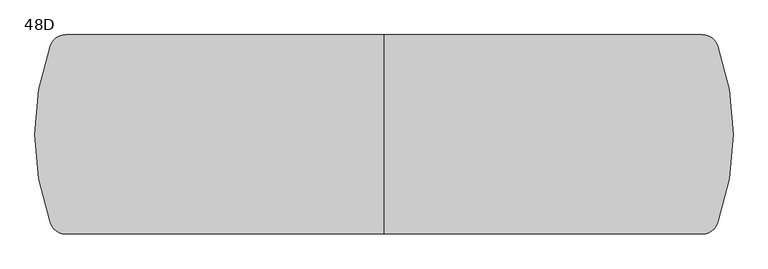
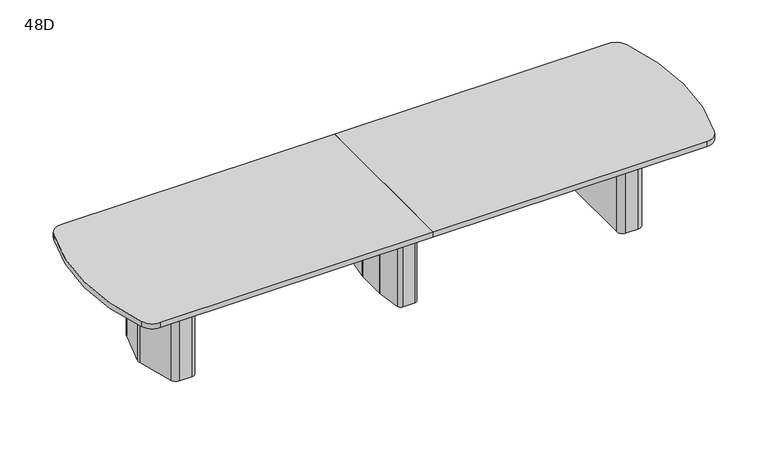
"""IFC4 building model written with IfcOpenShell, lengths in millimetres: furniture geometry, Coalesse_AM_Table_Conference_ETable2_SoftRadiused_14ft_ThreeBase : 48D."""

from ifc_helpers import new_model, si_unit, point, frame, frame_2d, origin, place, context, project, spatial, polyline, circle_curve, trimmed, segment, composite_curve, outline, extrude, source, transform, mapped, element, save
from ifc_brep_helpers import plane_surface, cylinder_surface, revolved_surface, advanced_brep


def furniture_48d_4687fa82(model_context):
    return source(origin(), model_context, "Body", "SolidModel", [
        advanced_brep(
        [(35.71875, 206.375, 3.175), (10.31875, 231.775, 3.175), (-10.31875, 231.775, 3.175), (-35.71875, 206.375, 3.175), (-35.71875, -206.375, 3.175), (-10.31875, -231.775, 3.175), (10.31875, -231.775, 3.175), (35.71875, -206.375, 3.175), (-61.11875, 206.375, 0.0), (-10.31875, 257.175, 0.0), (10.31875, 257.175, 0.0), (61.11875, 206.375, 0.0), (61.11875, -206.375, 0.0), (10.31875, -257.175, 0.0), (-10.31875, -257.175, 0.0), (-61.11875, -206.375, 0.0), (-61.11875, -206.375, 3.175), (-61.11875, 206.375, 3.175), (-10.31875, -257.175, 3.175), (10.31875, -257.175, 3.175), (61.11875, -206.375, 3.175), (61.11875, 206.375, 3.175), (10.31875, 257.175, 3.175), (-10.31875, 257.175, 3.175), (-92.6215974, 106.2976848, 698.5), (-92.86875, 102.7629613, 698.5), (-92.86875, -102.7629613, 698.5), (-92.6215974, -106.2976848, 698.5), (-67.7988375, -282.9347235, 698.5), (-42.6459902, -304.8, 698.5), (42.6459902, -304.8, 698.5), (67.7988375, -282.9347235, 698.5), (92.6215974, -106.2976848, 698.5), (92.86875, -102.7629613, 698.5), (92.86875, 102.7629613, 698.5), (92.6215974, 106.2976848, 698.5), (67.7988375, 282.9347235, 698.5), (42.6459902, 304.8, 698.5), (-42.6459902, 304.8, 698.5), (-67.7988375, 282.9347235, 698.5), (10.31875, 231.775, 698.5), (35.71875, 206.375, 698.5), (35.71875, -206.375, 698.5), (10.31875, -231.775, 698.5), (-10.31875, -231.775, 698.5), (-35.71875, -206.375, 698.5), (-35.71875, 206.375, 698.5), (-10.31875, 231.775, 698.5), (-92.6215974, 106.2976848, 3.175), (-67.7988375, 282.9347235, 3.175), (-42.6459902, 304.8, 3.175), (42.6459902, 304.8, 3.175), (67.7988375, 282.9347235, 3.175), (92.6215974, 106.2976848, 3.175), (92.86875, 102.7629613, 3.175), (92.86875, -102.7629613, 3.175), (92.6215974, -106.2976848, 3.175), (67.7988375, -282.9347235, 3.175), (42.6459902, -304.8, 3.175), (-42.6459902, -304.8, 3.175), (-67.7988375, -282.9347235, 3.175), (-92.6215974, -106.2976848, 3.175), (-92.86875, -102.7629613, 3.175), (-92.86875, 102.7629613, 3.175)],
        [
            (0, 1, circle_curve(frame((10.31875, 206.375, 3.175), z_axis=(0.0, 0.0, 1.0), x_axis=(1.0, 0.0, 0.0)), 25.4)),
            (1, 2),
            (2, 3, circle_curve(frame((-10.31875, 206.375, 3.175), z_axis=(0.0, 0.0, 1.0), x_axis=(1.0, 0.0, 0.0)), 25.4)),
            (3, 4),
            (4, 5, circle_curve(frame((-10.31875, -206.375, 3.175), z_axis=(0.0, 0.0, 1.0), x_axis=(1.0, 0.0, 0.0)), 25.4)),
            (5, 6),
            (6, 7, circle_curve(frame((10.31875, -206.375, 3.175), z_axis=(0.0, 0.0, 1.0), x_axis=(1.0, 0.0, 0.0)), 25.4)),
            (7, 0),
            (8, 9, circle_curve(frame((-10.31875, 206.375, 0.0), z_axis=(0.0, 0.0, -1.0), x_axis=(1.0, 0.0, 0.0)), 50.8)),
            (9, 10),
            (10, 11, circle_curve(frame((10.31875, 206.375, 0.0), z_axis=(0.0, 0.0, -1.0), x_axis=(1.0, 0.0, 0.0)), 50.8)),
            (11, 12),
            (12, 13, circle_curve(frame((10.31875, -206.375, 0.0), z_axis=(0.0, 0.0, -1.0), x_axis=(1.0, 0.0, 0.0)), 50.8)),
            (13, 14),
            (14, 15, circle_curve(frame((-10.31875, -206.375, 0.0), z_axis=(0.0, 0.0, -1.0), x_axis=(1.0, 0.0, 0.0)), 50.8)),
            (15, 8),
            (15, 16),
            (16, 17),
            (17, 8),
            (14, 18),
            (18, 16, circle_curve(frame((-10.31875, -206.375, 3.175), z_axis=(0.0, 0.0, -1.0), x_axis=(1.0, 0.0, 0.0)), 50.8)),
            (13, 19),
            (19, 18),
            (12, 20),
            (20, 19, circle_curve(frame((10.31875, -206.375, 3.175), z_axis=(0.0, 0.0, -1.0), x_axis=(1.0, 0.0, 0.0)), 50.8)),
            (11, 21),
            (21, 20),
            (10, 22),
            (22, 21, circle_curve(frame((10.31875, 206.375, 3.175), z_axis=(0.0, 0.0, -1.0), x_axis=(1.0, 0.0, 0.0)), 50.8)),
            (9, 23),
            (23, 22),
            (17, 23, circle_curve(frame((-10.31875, 206.375, 3.175), z_axis=(0.0, 0.0, -1.0), x_axis=(1.0, 0.0, 0.0)), 50.8)),
            (24, 25, circle_curve(frame((-67.46875, 102.7629613, 698.5), z_axis=(0.0, 0.0, 1.0), x_axis=(1.0, 0.0, 0.0)), 25.4)),
            (25, 26),
            (26, 27, circle_curve(frame((-67.46875, -102.7629613, 698.5), z_axis=(0.0, 0.0, 1.0), x_axis=(1.0, 0.0, 0.0)), 25.4)),
            (27, 28),
            (28, 29, circle_curve(frame((-42.6459902, -279.4, 698.5), z_axis=(0.0, 0.0, 1.0), x_axis=(1.0, 0.0, 0.0)), 25.4)),
            (29, 30),
            (30, 31, circle_curve(frame((42.6459902, -279.4, 698.5), z_axis=(0.0, 0.0, 1.0), x_axis=(1.0, 0.0, 0.0)), 25.4)),
            (31, 32),
            (32, 33, circle_curve(frame((67.46875, -102.7629613, 698.5), z_axis=(0.0, 0.0, 1.0), x_axis=(1.0, 0.0, 0.0)), 25.4)),
            (33, 34),
            (34, 35, circle_curve(frame((67.46875, 102.7629613, 698.5), z_axis=(0.0, 0.0, 1.0), x_axis=(1.0, 0.0, 0.0)), 25.4)),
            (35, 36),
            (36, 37, circle_curve(frame((42.6459902, 279.4, 698.5), z_axis=(0.0, 0.0, 1.0), x_axis=(1.0, 0.0, 0.0)), 25.4)),
            (37, 38),
            (38, 39, circle_curve(frame((-42.6459902, 279.4, 698.5), z_axis=(0.0, 0.0, 1.0), x_axis=(1.0, 0.0, 0.0)), 25.4)),
            (39, 24),
            (40, 41, circle_curve(frame((10.31875, 206.375, 698.5), z_axis=(0.0, 0.0, -1.0), x_axis=(1.0, 0.0, 0.0)), 25.4)),
            (41, 42),
            (42, 43, circle_curve(frame((10.31875, -206.375, 698.5), z_axis=(0.0, 0.0, -1.0), x_axis=(1.0, 0.0, 0.0)), 25.4)),
            (43, 44),
            (44, 45, circle_curve(frame((-10.31875, -206.375, 698.5), z_axis=(0.0, 0.0, -1.0), x_axis=(1.0, 0.0, 0.0)), 25.4)),
            (45, 46),
            (46, 47, circle_curve(frame((-10.31875, 206.375, 698.5), z_axis=(0.0, 0.0, -1.0), x_axis=(1.0, 0.0, 0.0)), 25.4)),
            (47, 40),
            (48, 49),
            (49, 50, circle_curve(frame((-42.6459902, 279.4, 3.175), z_axis=(0.0, 0.0, -1.0), x_axis=(1.0, 0.0, 0.0)), 25.4)),
            (50, 51),
            (51, 52, circle_curve(frame((42.6459902, 279.4, 3.175), z_axis=(0.0, 0.0, -1.0), x_axis=(1.0, 0.0, 0.0)), 25.4)),
            (52, 53),
            (53, 54, circle_curve(frame((67.46875, 102.7629613, 3.175), z_axis=(0.0, 0.0, -1.0), x_axis=(1.0, 0.0, 0.0)), 25.4)),
            (54, 55),
            (55, 56, circle_curve(frame((67.46875, -102.7629613, 3.175), z_axis=(0.0, 0.0, -1.0), x_axis=(1.0, 0.0, 0.0)), 25.4)),
            (56, 57),
            (57, 58, circle_curve(frame((42.6459902, -279.4, 3.175), z_axis=(0.0, 0.0, -1.0), x_axis=(1.0, 0.0, 0.0)), 25.4)),
            (58, 59),
            (59, 60, circle_curve(frame((-42.6459902, -279.4, 3.175), z_axis=(0.0, 0.0, -1.0), x_axis=(1.0, 0.0, 0.0)), 25.4)),
            (60, 61),
            (61, 62, circle_curve(frame((-67.46875, -102.7629613, 3.175), z_axis=(0.0, 0.0, -1.0), x_axis=(1.0, 0.0, 0.0)), 25.4)),
            (62, 63),
            (63, 48, circle_curve(frame((-67.46875, 102.7629613, 3.175), z_axis=(0.0, 0.0, -1.0), x_axis=(1.0, 0.0, 0.0)), 25.4)),
            (24, 48),
            (63, 25),
            (62, 26),
            (61, 27),
            (60, 28),
            (59, 29),
            (58, 30),
            (57, 31),
            (56, 32),
            (55, 33),
            (54, 34),
            (53, 35),
            (52, 36),
            (51, 37),
            (50, 38),
            (49, 39),
            (40, 1),
            (0, 41),
            (7, 42),
            (6, 43),
            (5, 44),
            (4, 45),
            (3, 46),
            (2, 47),
        ],
        [
            plane_surface(frame((-61.11875, -206.375, 3.175), z_axis=(0.0, 0.0, 1.0), x_axis=(0.0, -1.0, 0.0))),
            plane_surface(frame((-61.11875, -206.375, 0.0), z_axis=(0.0, 0.0, -1.0), x_axis=(0.0, 1.0, 0.0))),
            plane_surface(frame((-61.11875, 206.375, 3.175), z_axis=(-1.0, 0.0, 0.0), x_axis=(0.0, 0.0, -1.0))),
            cylinder_surface(frame((-10.31875, -206.375, 0.0), z_axis=(0.0, 0.0, 1.0), x_axis=(1.0, 0.0, 0.0)), 50.8),
            plane_surface(frame((-10.31875, -257.175, 3.175), z_axis=(0.0, -1.0, 0.0), x_axis=(0.0, 0.0, -1.0))),
            cylinder_surface(frame((10.31875, -206.375, 0.0), z_axis=(0.0, 0.0, 1.0), x_axis=(1.0, 0.0, 0.0)), 50.8),
            plane_surface(frame((61.11875, -206.375, 3.175), z_axis=(1.0, 0.0, 0.0), x_axis=(0.0, 0.0, -1.0))),
            cylinder_surface(frame((10.31875, 206.375, 0.0), z_axis=(0.0, 0.0, 1.0), x_axis=(1.0, 0.0, 0.0)), 50.8),
            plane_surface(frame((10.31875, 257.175, 3.175), z_axis=(0.0, 1.0, 0.0), x_axis=(0.0, 0.0, -1.0))),
            cylinder_surface(frame((-10.31875, 206.375, 0.0), z_axis=(0.0, 0.0, 1.0), x_axis=(1.0, 0.0, 0.0)), 50.8),
            plane_surface(frame((-42.06875, 102.7629613, 698.5), z_axis=(0.0, 0.0, 1.0), x_axis=(0.0, 1.0, 0.0))),
            plane_surface(frame((-42.06875, 102.7629613, 3.175), z_axis=(0.0, 0.0, -1.0), x_axis=(0.0, -1.0, 0.0))),
            cylinder_surface(frame((-67.46875, 102.7629613, 3.175), z_axis=(0.0, 0.0, 1.0), x_axis=(1.0, 0.0, 0.0)), 25.4),
            plane_surface(frame((-92.86875, 102.7629613, 698.5), z_axis=(-1.0, 0.0, 0.0), x_axis=(0.0, 0.0, -1.0))),
            cylinder_surface(frame((-67.46875, -102.7629613, 3.175), z_axis=(0.0, 0.0, 1.0), x_axis=(1.0, 0.0, 0.0)), 25.4),
            plane_surface(frame((-92.6215974, -106.2976848, 698.5), z_axis=(-0.9902695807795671, -0.13916234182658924, 0.0), x_axis=(0.0, 0.0, -1.0))),
            cylinder_surface(frame((-42.6459902, -279.4, 3.175), z_axis=(0.0, 0.0, 1.0), x_axis=(1.0, 0.0, 0.0)), 25.4),
            plane_surface(frame((-42.6459902, -304.8, 698.5), z_axis=(0.0, -1.0, 0.0), x_axis=(0.0, 0.0, -1.0))),
            cylinder_surface(frame((42.6459902, -279.4, 3.175), z_axis=(0.0, 0.0, 1.0), x_axis=(1.0, 0.0, 0.0)), 25.4),
            plane_surface(frame((67.7988375, -282.9347235, 698.5), z_axis=(0.9902695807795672, -0.13916234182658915, 0.0), x_axis=(0.0, 0.0, -1.0))),
            cylinder_surface(frame((67.46875, -102.7629613, 3.175), z_axis=(0.0, 0.0, 1.0), x_axis=(1.0, 0.0, 0.0)), 25.4),
            plane_surface(frame((92.86875, -102.7629613, 698.5), z_axis=(1.0, 0.0, 0.0), x_axis=(0.0, 0.0, -1.0))),
            cylinder_surface(frame((67.46875, 102.7629613, 3.175), z_axis=(0.0, 0.0, 1.0), x_axis=(1.0, 0.0, 0.0)), 25.4),
            plane_surface(frame((92.6215974, 106.2976848, 698.5), z_axis=(0.9902695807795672, 0.1391623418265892, 0.0), x_axis=(0.0, 0.0, -1.0))),
            cylinder_surface(frame((42.6459902, 279.4, 3.175), z_axis=(0.0, 0.0, 1.0), x_axis=(1.0, 0.0, 0.0)), 25.4),
            plane_surface(frame((42.6459902, 304.8, 698.5), z_axis=(0.0, 1.0, 0.0), x_axis=(0.0, 0.0, -1.0))),
            cylinder_surface(frame((-42.6459902, 279.4, 3.175), z_axis=(0.0, 0.0, 1.0), x_axis=(1.0, 0.0, 0.0)), 25.4),
            plane_surface(frame((-67.7988375, 282.9347235, 698.5), z_axis=(-0.9902695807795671, 0.13916234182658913, 0.0), x_axis=(0.0, 0.0, -1.0))),
            revolved_surface(polyline([(35.71875, 206.375, 3.175), (35.71875, 206.375, 698.5)]), (10.31875, 206.375, 0.0), (0.0, 0.0, -1.0)),
            plane_surface(frame((35.71875, 206.375, 698.5), z_axis=(-1.0, 0.0, 0.0), x_axis=(0.0, 0.0, -1.0))),
            revolved_surface(polyline([(35.71875, -206.375, 3.175), (35.71875, -206.375, 698.5)]), (10.31875, -206.375, 0.0), (0.0, 0.0, -1.0)),
            plane_surface(frame((10.31875, -231.775, 698.5), z_axis=(0.0, 1.0, 0.0), x_axis=(0.0, 0.0, -1.0))),
            revolved_surface(polyline([(15.081249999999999, -206.375, 3.175), (15.081249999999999, -206.375, 698.5)]), (-10.31875, -206.375, 0.0), (0.0, 0.0, -1.0)),
            plane_surface(frame((-35.71875, -206.375, 698.5), z_axis=(1.0, 0.0, 0.0), x_axis=(0.0, 0.0, -1.0))),
            revolved_surface(polyline([(15.081249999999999, 206.375, 3.175), (15.081249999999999, 206.375, 698.5)]), (-10.31875, 206.375, 0.0), (0.0, 0.0, -1.0)),
            plane_surface(frame((-10.31875, 231.775, 698.5), z_axis=(0.0, -1.0, 0.0), x_axis=(0.0, 0.0, -1.0))),
        ],
        [
            (0, [[1, 2, 3, 4, 5, 6, 7, 8]]),
            (1, [[9, 10, 11, 12, 13, 14, 15, 16]]),
            (2, [[-16, 17, 18, 19]]),
            (3, [[-15, 20, 21, -17]]),
            (4, [[-14, 22, 23, -20]]),
            (5, [[-13, 24, 25, -22]]),
            (6, [[-12, 26, 27, -24]]),
            (7, [[-11, 28, 29, -26]]),
            (8, [[-10, 30, 31, -28]]),
            (9, [[-9, -19, 32, -30]]),
            (10, [[33, 34, 35, 36, 37, 38, 39, 40, 41, 42, 43, 44, 45, 46, 47, 48], [49, 50, 51, 52, 53, 54, 55, 56]]),
            (11, [[57, 58, 59, 60, 61, 62, 63, 64, 65, 66, 67, 68, 69, 70, 71, 72], [-18, -21, -23, -25, -27, -29, -31, -32]]),
            (12, [[-33, 73, -72, 74]]),
            (13, [[-34, -74, -71, 75]]),
            (14, [[-35, -75, -70, 76]]),
            (15, [[-36, -76, -69, 77]]),
            (16, [[-37, -77, -68, 78]]),
            (17, [[-38, -78, -67, 79]]),
            (18, [[-39, -79, -66, 80]]),
            (19, [[-40, -80, -65, 81]]),
            (20, [[-41, -81, -64, 82]]),
            (21, [[-42, -82, -63, 83]]),
            (22, [[-43, -83, -62, 84]]),
            (23, [[-44, -84, -61, 85]]),
            (24, [[-45, -85, -60, 86]]),
            (25, [[-46, -86, -59, 87]]),
            (26, [[-47, -87, -58, 88]]),
            (27, [[-48, -88, -57, -73]]),
            (28, [[-49, 89, -1, 90]]),
            (29, [[-50, -90, -8, 91]]),
            (30, [[-51, -91, -7, 92]]),
            (31, [[-52, -92, -6, 93]]),
            (32, [[-53, -93, -5, 94]]),
            (33, [[-54, -94, -4, 95]]),
            (34, [[-55, -95, -3, 96]]),
            (35, [[-56, -96, -2, -89]]),
        ],
    ),
        advanced_brep(
        [(1675.024548, 274.2093613, 698.5), (1635.1579246, 304.8, 698.5), (1546.225, 304.8, 698.5), (1504.95, 263.525, 698.5), (1504.95, -263.525, 698.5), (1546.225, -304.8, 698.5), (1635.1579246, -304.8, 698.5), (1675.024548, -274.2093613, 698.5), (1745.6503901, -10.6333708, 698.5), (1745.6503901, 10.6333708, 698.5), (1543.05, -206.375, 698.5), (1543.05, 206.375, 698.5), (1568.45, 231.775, 698.5), (1627.4608422, 231.775, 698.5), (1651.995338, 212.9490792, 698.5), (1690.6875, 68.54974, 698.5), (1690.6875, -68.54974, 698.5), (1651.995338, -212.9490792, 698.5), (1627.4608422, -231.775, 698.5), (1568.45, -231.775, 698.5), (1675.024548, 274.2093613, 3.175), (1745.6503901, 10.6333708, 3.175), (1745.6503901, -10.6333708, 3.175), (1675.024548, -274.2093613, 3.175), (1635.1579246, -304.8, 3.175), (1546.225, -304.8, 3.175), (1504.95, -263.525, 3.175), (1504.95, 263.525, 3.175), (1546.225, 304.8, 3.175), (1635.1579246, 304.8, 3.175), (1664.2625859, 216.2361187, 3.175), (1627.4608422, 244.475, 3.175), (1568.45, 244.475, 3.175), (1530.35, 206.375, 3.175), (1530.35, -206.375, 3.175), (1568.45, -244.475, 3.175), (1627.4608422, -244.475, 3.175), (1664.2625859, -216.2361187, 3.175), (1703.3875, -70.2217466, 3.175), (1703.3875, 70.2217466, 3.175), (1568.45, -231.775, 3.175), (1543.05, -206.375, 3.175), (1627.4608422, -231.775, 3.175), (1651.995338, -212.9490792, 3.175), (1690.6875, -68.54974, 3.175), (1690.6875, 68.54974, 3.175), (1651.995338, 212.9490792, 3.175), (1627.4608422, 231.775, 3.175), (1568.45, 231.775, 3.175), (1543.05, 206.375, 3.175), (1664.2625859, 216.2361187, 0.0), (1703.3875, 70.2217466, 0.0), (1703.3875, -70.2217466, 0.0), (1664.2625859, -216.2361187, 0.0), (1627.4608422, -244.475, 0.0), (1568.45, -244.475, 0.0), (1530.35, -206.375, 0.0), (1530.35, 206.375, 0.0), (1568.45, 244.475, 0.0), (1627.4608422, 244.475, 0.0)],
        [
            (0, 1, circle_curve(frame((1635.1579246, 263.5270004, 698.5), z_axis=(0.0, 0.0, 1.0), x_axis=(-1.0, 0.0, 0.0)), 41.2729996)),
            (1, 2),
            (2, 3, circle_curve(frame((1546.225, 263.525, 698.5), z_axis=(0.0, 0.0, 1.0), x_axis=(-1.0, 0.0, 0.0)), 41.275)),
            (3, 4),
            (4, 5, circle_curve(frame((1546.225, -263.525, 698.5), z_axis=(0.0, 0.0, 1.0), x_axis=(-1.0, 0.0, 0.0)), 41.275)),
            (5, 6),
            (6, 7, circle_curve(frame((1635.1579246, -263.5270004, 698.5), z_axis=(0.0, 0.0, 1.0), x_axis=(-1.0, 0.0, 0.0)), 41.2729996)),
            (7, 8),
            (8, 9, circle_curve(frame((1705.9665979, 0.0, 698.5), z_axis=(0.0, 0.0, 1.0), x_axis=(-1.0, 0.0, 0.0)), 41.0837187)),
            (9, 0),
            (10, 11),
            (11, 12, circle_curve(frame((1568.45, 206.375, 698.5), z_axis=(0.0, 0.0, -1.0), x_axis=(-1.0, 0.0, 0.0)), 25.4)),
            (12, 13),
            (13, 14, circle_curve(frame((1627.4608422, 206.375, 698.5), z_axis=(0.0, 0.0, -1.0), x_axis=(-1.0, 0.0, 0.0)), 25.4)),
            (14, 15),
            (15, 16),
            (16, 17),
            (17, 18, circle_curve(frame((1627.4608422, -206.375, 698.5), z_axis=(0.0, 0.0, -1.0), x_axis=(-1.0, 0.0, 0.0)), 25.4)),
            (18, 19),
            (19, 10, circle_curve(frame((1568.45, -206.375, 698.5), z_axis=(0.0, 0.0, -1.0), x_axis=(-1.0, 0.0, 0.0)), 25.4)),
            (20, 21),
            (21, 22, circle_curve(frame((1705.9665979, 0.0, 3.175), z_axis=(0.0, 0.0, -1.0), x_axis=(-1.0, 0.0, 0.0)), 41.0837187)),
            (22, 23),
            (23, 24, circle_curve(frame((1635.1579246, -263.5270004, 3.175), z_axis=(0.0, 0.0, -1.0), x_axis=(-1.0, 0.0, 0.0)), 41.2729996)),
            (24, 25),
            (25, 26, circle_curve(frame((1546.225, -263.525, 3.175), z_axis=(0.0, 0.0, -1.0), x_axis=(-1.0, 0.0, 0.0)), 41.275)),
            (26, 27),
            (27, 28, circle_curve(frame((1546.225, 263.525, 3.175), z_axis=(0.0, 0.0, -1.0), x_axis=(-1.0, 0.0, 0.0)), 41.275)),
            (28, 29),
            (29, 20, circle_curve(frame((1635.1579246, 263.5270004, 3.175), z_axis=(0.0, 0.0, -1.0), x_axis=(-1.0, 0.0, 0.0)), 41.2729996)),
            (30, 31, circle_curve(frame((1627.4608422, 206.375, 3.175), z_axis=(0.0, 0.0, 1.0), x_axis=(-1.0, 0.0, 0.0)), 38.1)),
            (31, 32),
            (32, 33, circle_curve(frame((1568.45, 206.375, 3.175), z_axis=(0.0, 0.0, 1.0), x_axis=(-1.0, 0.0, 0.0)), 38.1)),
            (33, 34),
            (34, 35, circle_curve(frame((1568.45, -206.375, 3.175), z_axis=(0.0, 0.0, 1.0), x_axis=(-1.0, 0.0, 0.0)), 38.1)),
            (35, 36),
            (36, 37, circle_curve(frame((1627.4608422, -206.375, 3.175), z_axis=(0.0, 0.0, 1.0), x_axis=(-1.0, 0.0, 0.0)), 38.1)),
            (37, 38),
            (38, 39),
            (39, 30),
            (9, 21),
            (20, 0),
            (8, 22),
            (7, 23),
            (6, 24),
            (5, 25),
            (4, 26),
            (3, 27),
            (2, 28),
            (1, 29),
            (19, 40),
            (40, 41, circle_curve(frame((1568.45, -206.375, 3.175), z_axis=(0.0, 0.0, -1.0), x_axis=(-1.0, 0.0, 0.0)), 25.4)),
            (41, 10),
            (18, 42),
            (42, 40),
            (17, 43),
            (43, 42, circle_curve(frame((1627.4608422, -206.375, 3.175), z_axis=(0.0, 0.0, -1.0), x_axis=(-1.0, 0.0, 0.0)), 25.4)),
            (16, 44),
            (44, 43),
            (15, 45),
            (45, 44),
            (14, 46),
            (46, 45),
            (13, 47),
            (47, 46, circle_curve(frame((1627.4608422, 206.375, 3.175), z_axis=(0.0, 0.0, -1.0), x_axis=(-1.0, 0.0, 0.0)), 25.4)),
            (12, 48),
            (48, 47),
            (11, 49),
            (49, 48, circle_curve(frame((1568.45, 206.375, 3.175), z_axis=(0.0, 0.0, -1.0), x_axis=(-1.0, 0.0, 0.0)), 25.4)),
            (41, 49),
            (50, 51),
            (51, 52),
            (52, 53),
            (53, 54, circle_curve(frame((1627.4608422, -206.375, 0.0), z_axis=(0.0, 0.0, -1.0), x_axis=(-1.0, 0.0, 0.0)), 38.1)),
            (54, 55),
            (55, 56, circle_curve(frame((1568.45, -206.375, 0.0), z_axis=(0.0, 0.0, -1.0), x_axis=(-1.0, 0.0, 0.0)), 38.1)),
            (56, 57),
            (57, 58, circle_curve(frame((1568.45, 206.375, 0.0), z_axis=(0.0, 0.0, -1.0), x_axis=(-1.0, 0.0, 0.0)), 38.1)),
            (58, 59),
            (59, 50, circle_curve(frame((1627.4608422, 206.375, 0.0), z_axis=(0.0, 0.0, -1.0), x_axis=(-1.0, 0.0, 0.0)), 38.1)),
            (50, 30),
            (39, 51),
            (38, 52),
            (37, 53),
            (36, 54),
            (35, 55),
            (34, 56),
            (33, 57),
            (32, 58),
            (31, 59),
        ],
        [
            plane_surface(frame((1745.6374275, 10.6817473, 698.5), z_axis=(0.0, 0.0, 1.0000000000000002), x_axis=(0.25882201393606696, -0.9659250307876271, 0.0))),
            plane_surface(frame((1745.6374275, 10.6817473, 3.175), z_axis=(0.0, 0.0, -1.0000000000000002), x_axis=(-0.25882201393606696, 0.9659250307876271, 0.0))),
            plane_surface(frame((1675.024548, 274.2093613, 698.5), z_axis=(0.9659250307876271, 0.25882201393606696, 0.0), x_axis=(0.0, 0.0, -1.0))),
            cylinder_surface(frame((1705.9665979, 0.0, 3.175), z_axis=(0.0, 0.0, 1.0), x_axis=(-1.0, 0.0, 0.0)), 41.0837187),
            plane_surface(frame((1745.6503901, -10.6333708, 698.5), z_axis=(0.9659250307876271, -0.2588220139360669, 0.0), x_axis=(0.0, 0.0, -1.0))),
            cylinder_surface(frame((1635.1579246, -263.5270004, 3.175), z_axis=(0.0, 0.0, 1.0), x_axis=(-1.0, 0.0, 0.0)), 41.2729996),
            plane_surface(frame((1635.1579246, -304.8, 698.5), z_axis=(0.0, -1.0, 0.0), x_axis=(0.0, 0.0, -1.0))),
            cylinder_surface(frame((1546.225, -263.525, 3.175), z_axis=(0.0, 0.0, 1.0), x_axis=(-1.0, 0.0, 0.0)), 41.275),
            plane_surface(frame((1504.95, -263.525, 698.5), z_axis=(-1.0, 0.0, 0.0), x_axis=(0.0, 0.0, -1.0))),
            cylinder_surface(frame((1546.225, 263.525, 3.175), z_axis=(0.0, 0.0, 1.0), x_axis=(-1.0, 0.0, 0.0)), 41.275),
            plane_surface(frame((1546.225, 304.8, 698.5), z_axis=(0.0, 1.0, 0.0), x_axis=(0.0, 0.0, -1.0))),
            cylinder_surface(frame((1635.1579246, 263.5270004, 3.175), z_axis=(0.0, 0.0, 1.0), x_axis=(-1.0, 0.0, 0.0)), 41.2729996),
            revolved_surface(polyline([(1543.05, -206.375, 3.175), (1543.05, -206.375, 698.5)]), (1568.45, -206.375, 0.0), (0.0, 0.0, -1.0)),
            plane_surface(frame((1568.45, -231.775, 698.5), z_axis=(0.0, 1.0, 0.0), x_axis=(0.0, 0.0, -1.0))),
            revolved_surface(polyline([(1602.0608421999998, -206.375, 3.175), (1602.0608421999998, -206.375, 698.5)]), (1627.4608422, -206.375, 0.0), (0.0, 0.0, -1.0)),
            plane_surface(frame((1651.995338, -212.9490792, 698.5), z_axis=(-0.9659250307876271, 0.2588220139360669, 0.0), x_axis=(0.0, 0.0, -1.0))),
            plane_surface(frame((1690.6875, -68.54974, 698.5), z_axis=(-1.0, 0.0, 0.0), x_axis=(0.0, 0.0, -1.0))),
            plane_surface(frame((1690.6875, 68.54974, 698.5), z_axis=(-0.9659250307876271, -0.25882201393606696, 0.0), x_axis=(0.0, 0.0, -1.0))),
            revolved_surface(polyline([(1602.0608421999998, 206.375, 3.175), (1602.0608421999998, 206.375, 698.5)]), (1627.4608422, 206.375, 0.0), (0.0, 0.0, -1.0)),
            plane_surface(frame((1627.4608422, 231.775, 698.5), z_axis=(0.0, -1.0, 0.0), x_axis=(0.0, 0.0, -1.0))),
            revolved_surface(polyline([(1543.05, 206.375, 3.175), (1543.05, 206.375, 698.5)]), (1568.45, 206.375, 0.0), (0.0, 0.0, -1.0)),
            plane_surface(frame((1543.05, 206.375, 698.5), z_axis=(1.0, 0.0, 0.0), x_axis=(0.0, 0.0, -1.0))),
            plane_surface(frame((1702.9547479, 71.8367796, 3.175), z_axis=(0.0, 0.0, 1.0), x_axis=(0.25882201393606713, -0.965925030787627, 0.0))),
            plane_surface(frame((1702.9547479, 71.8367796, 0.0), z_axis=(0.0, 0.0, -1.0), x_axis=(-0.25882201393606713, 0.965925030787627, 0.0))),
            plane_surface(frame((1664.2625859, 216.2361187, 3.175), z_axis=(0.965925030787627, 0.25882201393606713, 0.0), x_axis=(0.0, 0.0, -1.0))),
            plane_surface(frame((1703.3875, 70.2217466, 3.175), z_axis=(1.0, 0.0, 0.0), x_axis=(0.0, 0.0, -1.0))),
            plane_surface(frame((1703.3875, -70.2217466, 3.175), z_axis=(0.9659250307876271, -0.2588220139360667, 0.0), x_axis=(0.0, 0.0, -1.0))),
            cylinder_surface(frame((1627.4608422, -206.375, 0.0), z_axis=(0.0, 0.0, 1.0), x_axis=(-1.0, 0.0, 0.0)), 38.1),
            plane_surface(frame((1627.4608422, -244.475, 3.175), z_axis=(0.0, -1.0, 0.0), x_axis=(0.0, 0.0, -1.0))),
            cylinder_surface(frame((1568.45, -206.375, 0.0), z_axis=(0.0, 0.0, 1.0), x_axis=(-1.0, 0.0, 0.0)), 38.1),
            plane_surface(frame((1530.35, -206.375, 3.175), z_axis=(-1.0, 0.0, 0.0), x_axis=(0.0, 0.0, -1.0))),
            cylinder_surface(frame((1568.45, 206.375, 0.0), z_axis=(0.0, 0.0, 1.0), x_axis=(-1.0, 0.0, 0.0)), 38.1),
            plane_surface(frame((1568.45, 244.475, 3.175), z_axis=(0.0, 1.0, 0.0), x_axis=(0.0, 0.0, -1.0))),
            cylinder_surface(frame((1627.4608422, 206.375, 0.0), z_axis=(0.0, 0.0, 1.0), x_axis=(-1.0, 0.0, 0.0)), 38.1),
        ],
        [
            (0, [[1, 2, 3, 4, 5, 6, 7, 8, 9, 10], [11, 12, 13, 14, 15, 16, 17, 18, 19, 20]]),
            (1, [[21, 22, 23, 24, 25, 26, 27, 28, 29, 30], [31, 32, 33, 34, 35, 36, 37, 38, 39, 40]]),
            (2, [[41, -21, 42, -10]]),
            (3, [[43, -22, -41, -9]]),
            (4, [[44, -23, -43, -8]]),
            (5, [[45, -24, -44, -7]]),
            (6, [[46, -25, -45, -6]]),
            (7, [[47, -26, -46, -5]]),
            (8, [[48, -27, -47, -4]]),
            (9, [[49, -28, -48, -3]]),
            (10, [[50, -29, -49, -2]]),
            (11, [[-42, -30, -50, -1]]),
            (12, [[51, 52, 53, -20]]),
            (13, [[54, 55, -51, -19]]),
            (14, [[56, 57, -54, -18]]),
            (15, [[58, 59, -56, -17]]),
            (16, [[60, 61, -58, -16]]),
            (17, [[62, 63, -60, -15]]),
            (18, [[64, 65, -62, -14]]),
            (19, [[66, 67, -64, -13]]),
            (20, [[68, 69, -66, -12]]),
            (21, [[-53, 70, -68, -11]]),
            (22, [[-55, -57, -59, -61, -63, -65, -67, -69, -70, -52]]),
            (23, [[71, 72, 73, 74, 75, 76, 77, 78, 79, 80]]),
            (24, [[81, -40, 82, -71]]),
            (25, [[-82, -39, 83, -72]]),
            (26, [[-83, -38, 84, -73]]),
            (27, [[-84, -37, 85, -74]]),
            (28, [[-85, -36, 86, -75]]),
            (29, [[-86, -35, 87, -76]]),
            (30, [[-87, -34, 88, -77]]),
            (31, [[-88, -33, 89, -78]]),
            (32, [[-89, -32, 90, -79]]),
            (33, [[-90, -31, -81, -80]]),
        ],
    ),
        advanced_brep(
        [(-1675.024548, 274.2093613, 698.5), (-1745.6503901, 10.6333708, 698.5), (-1745.6503901, -10.6333708, 698.5), (-1675.024548, -274.2093613, 698.5), (-1635.1579246, -304.8, 698.5), (-1546.225, -304.8, 698.5), (-1504.95, -263.525, 698.5), (-1504.95, 263.525, 698.5), (-1546.225, 304.8, 698.5), (-1635.1579246, 304.8, 698.5), (-1543.05, -206.375, 698.5), (-1568.45, -231.775, 698.5), (-1627.4608422, -231.775, 698.5), (-1651.995338, -212.9490792, 698.5), (-1690.6875, -68.54974, 698.5), (-1690.6875, 68.54974, 698.5), (-1651.995338, 212.9490792, 698.5), (-1627.4608422, 231.775, 698.5), (-1568.45, 231.775, 698.5), (-1543.05, 206.375, 698.5), (-1675.024548, 274.2093613, 3.175), (-1635.1579246, 304.8, 3.175), (-1546.225, 304.8, 3.175), (-1504.95, 263.525, 3.175), (-1504.95, -263.525, 3.175), (-1546.225, -304.8, 3.175), (-1635.1579246, -304.8, 3.175), (-1675.024548, -274.2093613, 3.175), (-1745.6503901, -10.6333708, 3.175), (-1745.6503901, 10.6333708, 3.175), (-1664.2625859, 216.2361187, 3.175), (-1703.3875, 70.2217466, 3.175), (-1703.3875, -70.2217466, 3.175), (-1664.2625859, -216.2361187, 3.175), (-1627.4608422, -244.475, 3.175), (-1568.45, -244.475, 3.175), (-1530.35, -206.375, 3.175), (-1530.35, 206.375, 3.175), (-1568.45, 244.475, 3.175), (-1627.4608422, 244.475, 3.175), (-1543.05, -206.375, 3.175), (-1568.45, -231.775, 3.175), (-1627.4608422, -231.775, 3.175), (-1651.995338, -212.9490792, 3.175), (-1690.6875, -68.54974, 3.175), (-1690.6875, 68.54974, 3.175), (-1651.995338, 212.9490792, 3.175), (-1627.4608422, 231.775, 3.175), (-1568.45, 231.775, 3.175), (-1543.05, 206.375, 3.175), (-1664.2625859, 216.2361187, 0.0), (-1627.4608422, 244.475, 0.0), (-1568.45, 244.475, 0.0), (-1530.35, 206.375, 0.0), (-1530.35, -206.375, 0.0), (-1568.45, -244.475, 0.0), (-1627.4608422, -244.475, 0.0), (-1664.2625859, -216.2361187, 0.0), (-1703.3875, -70.2217466, 0.0), (-1703.3875, 70.2217466, 0.0)],
        [
            (0, 1),
            (1, 2, circle_curve(frame((-1705.9665979, 0.0, 698.5), z_axis=(0.0, 0.0, 1.0), x_axis=(1.0, 0.0, 0.0)), 41.0837187)),
            (2, 3),
            (3, 4, circle_curve(frame((-1635.1579246, -263.5270004, 698.5), z_axis=(0.0, 0.0, 1.0), x_axis=(1.0, 0.0, 0.0)), 41.2729996)),
            (4, 5),
            (5, 6, circle_curve(frame((-1546.225, -263.525, 698.5), z_axis=(0.0, 0.0, 1.0), x_axis=(1.0, 0.0, 0.0)), 41.275)),
            (6, 7),
            (7, 8, circle_curve(frame((-1546.225, 263.525, 698.5), z_axis=(0.0, 0.0, 1.0), x_axis=(1.0, 0.0, 0.0)), 41.275)),
            (8, 9),
            (9, 0, circle_curve(frame((-1635.1579246, 263.5270004, 698.5), z_axis=(0.0, 0.0, 1.0), x_axis=(1.0, 0.0, 0.0)), 41.2729996)),
            (10, 11, circle_curve(frame((-1568.45, -206.375, 698.5), z_axis=(0.0, 0.0, -1.0), x_axis=(1.0, 0.0, 0.0)), 25.4)),
            (11, 12),
            (12, 13, circle_curve(frame((-1627.4608422, -206.375, 698.5), z_axis=(0.0, 0.0, -1.0), x_axis=(1.0, 0.0, 0.0)), 25.4)),
            (13, 14),
            (14, 15),
            (15, 16),
            (16, 17, circle_curve(frame((-1627.4608422, 206.375, 698.5), z_axis=(0.0, 0.0, -1.0), x_axis=(1.0, 0.0, 0.0)), 25.4)),
            (17, 18),
            (18, 19, circle_curve(frame((-1568.45, 206.375, 698.5), z_axis=(0.0, 0.0, -1.0), x_axis=(1.0, 0.0, 0.0)), 25.4)),
            (19, 10),
            (20, 21, circle_curve(frame((-1635.1579246, 263.5270004, 3.175), z_axis=(0.0, 0.0, -1.0), x_axis=(1.0, 0.0, 0.0)), 41.2729996)),
            (21, 22),
            (22, 23, circle_curve(frame((-1546.225, 263.525, 3.175), z_axis=(0.0, 0.0, -1.0), x_axis=(1.0, 0.0, 0.0)), 41.275)),
            (23, 24),
            (24, 25, circle_curve(frame((-1546.225, -263.525, 3.175), z_axis=(0.0, 0.0, -1.0), x_axis=(1.0, 0.0, 0.0)), 41.275)),
            (25, 26),
            (26, 27, circle_curve(frame((-1635.1579246, -263.5270004, 3.175), z_axis=(0.0, 0.0, -1.0), x_axis=(1.0, 0.0, 0.0)), 41.2729996)),
            (27, 28),
            (28, 29, circle_curve(frame((-1705.9665979, 0.0, 3.175), z_axis=(0.0, 0.0, -1.0), x_axis=(1.0, 0.0, 0.0)), 41.0837187)),
            (29, 20),
            (30, 31),
            (31, 32),
            (32, 33),
            (33, 34, circle_curve(frame((-1627.4608422, -206.375, 3.175), z_axis=(0.0, 0.0, 1.0), x_axis=(1.0, 0.0, 0.0)), 38.1)),
            (34, 35),
            (35, 36, circle_curve(frame((-1568.45, -206.375, 3.175), z_axis=(0.0, 0.0, 1.0), x_axis=(1.0, 0.0, 0.0)), 38.1)),
            (36, 37),
            (37, 38, circle_curve(frame((-1568.45, 206.375, 3.175), z_axis=(0.0, 0.0, 1.0), x_axis=(1.0, 0.0, 0.0)), 38.1)),
            (38, 39),
            (39, 30, circle_curve(frame((-1627.4608422, 206.375, 3.175), z_axis=(0.0, 0.0, 1.0), x_axis=(1.0, 0.0, 0.0)), 38.1)),
            (0, 20),
            (29, 1),
            (28, 2),
            (27, 3),
            (26, 4),
            (25, 5),
            (24, 6),
            (23, 7),
            (22, 8),
            (21, 9),
            (10, 40),
            (40, 41, circle_curve(frame((-1568.45, -206.375, 3.175), z_axis=(0.0, 0.0, -1.0), x_axis=(1.0, 0.0, 0.0)), 25.4)),
            (41, 11),
            (41, 42),
            (42, 12),
            (42, 43, circle_curve(frame((-1627.4608422, -206.375, 3.175), z_axis=(0.0, 0.0, -1.0), x_axis=(1.0, 0.0, 0.0)), 25.4)),
            (43, 13),
            (43, 44),
            (44, 14),
            (44, 45),
            (45, 15),
            (45, 46),
            (46, 16),
            (46, 47, circle_curve(frame((-1627.4608422, 206.375, 3.175), z_axis=(0.0, 0.0, -1.0), x_axis=(1.0, 0.0, 0.0)), 25.4)),
            (47, 17),
            (47, 48),
            (48, 18),
            (48, 49, circle_curve(frame((-1568.45, 206.375, 3.175), z_axis=(0.0, 0.0, -1.0), x_axis=(1.0, 0.0, 0.0)), 25.4)),
            (49, 19),
            (49, 40),
            (50, 51, circle_curve(frame((-1627.4608422, 206.375, 0.0), z_axis=(0.0, 0.0, -1.0), x_axis=(1.0, 0.0, 0.0)), 38.1)),
            (51, 52),
            (52, 53, circle_curve(frame((-1568.45, 206.375, 0.0), z_axis=(0.0, 0.0, -1.0), x_axis=(1.0, 0.0, 0.0)), 38.1)),
            (53, 54),
            (54, 55, circle_curve(frame((-1568.45, -206.375, 0.0), z_axis=(0.0, 0.0, -1.0), x_axis=(1.0, 0.0, 0.0)), 38.1)),
            (55, 56),
            (56, 57, circle_curve(frame((-1627.4608422, -206.375, 0.0), z_axis=(0.0, 0.0, -1.0), x_axis=(1.0, 0.0, 0.0)), 38.1)),
            (57, 58),
            (58, 59),
            (59, 50),
            (59, 31),
            (30, 50),
            (58, 32),
            (57, 33),
            (56, 34),
            (55, 35),
            (54, 36),
            (53, 37),
            (52, 38),
            (51, 39),
        ],
        [
            plane_surface(frame((-1745.6374275, 10.6817473, 698.5), z_axis=(0.0, 0.0, 1.0000000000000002), x_axis=(-0.25882201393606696, -0.9659250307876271, 0.0))),
            plane_surface(frame((-1745.6374275, 10.6817473, 3.175), z_axis=(0.0, 0.0, -1.0000000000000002), x_axis=(0.25882201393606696, 0.9659250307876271, 0.0))),
            plane_surface(frame((-1675.024548, 274.2093613, 698.5), z_axis=(-0.9659250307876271, 0.25882201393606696, 0.0), x_axis=(0.0, 0.0, -1.0))),
            cylinder_surface(frame((-1705.9665979, 0.0, 3.175), z_axis=(0.0, 0.0, 1.0), x_axis=(1.0, 0.0, 0.0)), 41.0837187),
            plane_surface(frame((-1745.6503901, -10.6333708, 698.5), z_axis=(-0.9659250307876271, -0.2588220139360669, 0.0), x_axis=(0.0, 0.0, -1.0))),
            cylinder_surface(frame((-1635.1579246, -263.5270004, 3.175), z_axis=(0.0, 0.0, 1.0), x_axis=(1.0, 0.0, 0.0)), 41.2729996),
            plane_surface(frame((-1635.1579246, -304.8, 698.5), z_axis=(0.0, -1.0, 0.0), x_axis=(0.0, 0.0, -1.0))),
            cylinder_surface(frame((-1546.225, -263.525, 3.175), z_axis=(0.0, 0.0, 1.0), x_axis=(1.0, 0.0, 0.0)), 41.275),
            plane_surface(frame((-1504.95, -263.525, 698.5), z_axis=(1.0, 0.0, 0.0), x_axis=(0.0, 0.0, -1.0))),
            cylinder_surface(frame((-1546.225, 263.525, 3.175), z_axis=(0.0, 0.0, 1.0), x_axis=(1.0, 0.0, 0.0)), 41.275),
            plane_surface(frame((-1546.225, 304.8, 698.5), z_axis=(0.0, 1.0, 0.0), x_axis=(0.0, 0.0, -1.0))),
            cylinder_surface(frame((-1635.1579246, 263.5270004, 3.175), z_axis=(0.0, 0.0, 1.0), x_axis=(1.0, 0.0, 0.0)), 41.2729996),
            revolved_surface(polyline([(-1543.05, -206.375, 3.175), (-1543.05, -206.375, 698.5)]), (-1568.45, -206.375, 0.0), (0.0, 0.0, -1.0)),
            plane_surface(frame((-1568.45, -231.775, 698.5), z_axis=(0.0, 1.0, 0.0), x_axis=(0.0, 0.0, -1.0))),
            revolved_surface(polyline([(-1602.0608421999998, -206.375, 3.175), (-1602.0608421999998, -206.375, 698.5)]), (-1627.4608422, -206.375, 0.0), (0.0, 0.0, -1.0)),
            plane_surface(frame((-1651.995338, -212.9490792, 698.5), z_axis=(0.9659250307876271, 0.2588220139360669, 0.0), x_axis=(0.0, 0.0, -1.0))),
            plane_surface(frame((-1690.6875, -68.54974, 698.5), z_axis=(1.0, 0.0, 0.0), x_axis=(0.0, 0.0, -1.0))),
            plane_surface(frame((-1690.6875, 68.54974, 698.5), z_axis=(0.9659250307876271, -0.25882201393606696, 0.0), x_axis=(0.0, 0.0, -1.0))),
            revolved_surface(polyline([(-1602.0608421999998, 206.375, 3.175), (-1602.0608421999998, 206.375, 698.5)]), (-1627.4608422, 206.375, 0.0), (0.0, 0.0, -1.0)),
            plane_surface(frame((-1627.4608422, 231.775, 698.5), z_axis=(0.0, -1.0, 0.0), x_axis=(0.0, 0.0, -1.0))),
            revolved_surface(polyline([(-1543.05, 206.375, 3.175), (-1543.05, 206.375, 698.5)]), (-1568.45, 206.375, 0.0), (0.0, 0.0, -1.0)),
            plane_surface(frame((-1543.05, 206.375, 698.5), z_axis=(-1.0, 0.0, 0.0), x_axis=(0.0, 0.0, -1.0))),
            plane_surface(frame((-1702.9547479, 71.8367796, 3.175), z_axis=(0.0, 0.0, 1.0), x_axis=(-0.25882201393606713, -0.965925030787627, 0.0))),
            plane_surface(frame((-1702.9547479, 71.8367796, 0.0), z_axis=(0.0, 0.0, -1.0), x_axis=(0.25882201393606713, 0.965925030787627, 0.0))),
            plane_surface(frame((-1664.2625859, 216.2361187, 3.175), z_axis=(-0.965925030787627, 0.25882201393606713, 0.0), x_axis=(0.0, 0.0, -1.0))),
            plane_surface(frame((-1703.3875, 70.2217466, 3.175), z_axis=(-1.0, 0.0, 0.0), x_axis=(0.0, 0.0, -1.0))),
            plane_surface(frame((-1703.3875, -70.2217466, 3.175), z_axis=(-0.9659250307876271, -0.2588220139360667, 0.0), x_axis=(0.0, 0.0, -1.0))),
            cylinder_surface(frame((-1627.4608422, -206.375, 0.0), z_axis=(0.0, 0.0, 1.0), x_axis=(1.0, 0.0, 0.0)), 38.1),
            plane_surface(frame((-1627.4608422, -244.475, 3.175), z_axis=(0.0, -1.0, 0.0), x_axis=(0.0, 0.0, -1.0))),
            cylinder_surface(frame((-1568.45, -206.375, 0.0), z_axis=(0.0, 0.0, 1.0), x_axis=(1.0, 0.0, 0.0)), 38.1),
            plane_surface(frame((-1530.35, -206.375, 3.175), z_axis=(1.0, 0.0, 0.0), x_axis=(0.0, 0.0, -1.0))),
            cylinder_surface(frame((-1568.45, 206.375, 0.0), z_axis=(0.0, 0.0, 1.0), x_axis=(1.0, 0.0, 0.0)), 38.1),
            plane_surface(frame((-1568.45, 244.475, 3.175), z_axis=(0.0, 1.0, 0.0), x_axis=(0.0, 0.0, -1.0))),
            cylinder_surface(frame((-1627.4608422, 206.375, 0.0), z_axis=(0.0, 0.0, 1.0), x_axis=(1.0, 0.0, 0.0)), 38.1),
        ],
        [
            (0, [[1, 2, 3, 4, 5, 6, 7, 8, 9, 10], [11, 12, 13, 14, 15, 16, 17, 18, 19, 20]]),
            (1, [[21, 22, 23, 24, 25, 26, 27, 28, 29, 30], [31, 32, 33, 34, 35, 36, 37, 38, 39, 40]]),
            (2, [[-1, 41, -30, 42]]),
            (3, [[-2, -42, -29, 43]]),
            (4, [[-3, -43, -28, 44]]),
            (5, [[-4, -44, -27, 45]]),
            (6, [[-5, -45, -26, 46]]),
            (7, [[-6, -46, -25, 47]]),
            (8, [[-7, -47, -24, 48]]),
            (9, [[-8, -48, -23, 49]]),
            (10, [[-9, -49, -22, 50]]),
            (11, [[-10, -50, -21, -41]]),
            (12, [[-11, 51, 52, 53]]),
            (13, [[-12, -53, 54, 55]]),
            (14, [[-13, -55, 56, 57]]),
            (15, [[-14, -57, 58, 59]]),
            (16, [[-15, -59, 60, 61]]),
            (17, [[-16, -61, 62, 63]]),
            (18, [[-17, -63, 64, 65]]),
            (19, [[-18, -65, 66, 67]]),
            (20, [[-19, -67, 68, 69]]),
            (21, [[-20, -69, 70, -51]]),
            (22, [[-52, -70, -68, -66, -64, -62, -60, -58, -56, -54]]),
            (23, [[71, 72, 73, 74, 75, 76, 77, 78, 79, 80]]),
            (24, [[-80, 81, -31, 82]]),
            (25, [[-79, 83, -32, -81]]),
            (26, [[-78, 84, -33, -83]]),
            (27, [[-77, 85, -34, -84]]),
            (28, [[-76, 86, -35, -85]]),
            (29, [[-75, 87, -36, -86]]),
            (30, [[-74, 88, -37, -87]]),
            (31, [[-73, 89, -38, -88]]),
            (32, [[-72, 90, -39, -89]]),
            (33, [[-71, -82, -40, -90]]),
        ],
    ),
        extrude(outline(composite_curve([segment(trimmed(circle_curve(frame_2d((1944.4557965, 508.0)), 101.6), [point((1944.4557965, 609.6))], [point((2040.2453259, 541.8662966))], False, "CARTESIAN"), True, "CONTINUOUS"), segment(polyline([(2040.2453259, 541.8662966), (2040.9956256, 539.7441026)]), True, "CONTINUOUS"), segment(trimmed(circle_curve(frame_2d((514.35, 0.0)), 1619.25), [point((2040.9956256, 539.7441026))], [point((2040.9956256, -539.7441026))], False, "CARTESIAN"), True, "CONTINUOUS"), segment(polyline([(2040.9956256, -539.7441026), (2040.2453259, -541.8662966)]), True, "CONTINUOUS"), segment(trimmed(circle_curve(frame_2d((1944.4557965, -508.0)), 101.6), [point((2040.2453259, -541.8662966))], [point((1944.4557965, -609.6))], False, "CARTESIAN"), True, "CONTINUOUS"), segment(polyline([(1944.4557965, -609.6), (0.0, -609.6), (0.0, 609.6), (1944.4557965, 609.6)]), True, "CONTINUOUS")], self_intersect=False)), frame((0.0, 0.0, 698.5), z_axis=(0.0, 0.0, 1.0), x_axis=(1.0, 0.0, 0.0)), (0.0, 0.0, 1.0), 38.1),
        extrude(outline(composite_curve([segment(polyline([(-1944.4557965, 609.6), (0.0, 609.6), (0.0, -609.6), (-1944.4557965, -609.6)]), True, "CONTINUOUS"), segment(trimmed(circle_curve(frame_2d((-1944.4557965, -508.0)), 101.6), [point((-1944.4557965, -609.6))], [point((-2040.2453259, -541.8662966))], False, "CARTESIAN"), True, "CONTINUOUS"), segment(polyline([(-2040.2453259, -541.8662966), (-2040.9956256, -539.7441026)]), True, "CONTINUOUS"), segment(trimmed(circle_curve(frame_2d((-514.35, 0.0)), 1619.25), [point((-2040.9956256, -539.7441026))], [point((-2040.9956256, 539.7441026))], False, "CARTESIAN"), True, "CONTINUOUS"), segment(polyline([(-2040.9956256, 539.7441026), (-2040.2453259, 541.8662966)]), True, "CONTINUOUS"), segment(trimmed(circle_curve(frame_2d((-1944.4557965, 508.0)), 101.6), [point((-2040.2453259, 541.8662966))], [point((-1944.4557965, 609.6))], False, "CARTESIAN"), True, "CONTINUOUS")], self_intersect=False)), frame((0.0, 0.0, 698.5), z_axis=(0.0, 0.0, 1.0), x_axis=(1.0, 0.0, 0.0)), (0.0, 0.0, 1.0), 38.1),
        extrude(outline(polyline([(96.8375, 698.5), (103.1875, 698.5), (103.1875, 476.25), (-103.1875, 476.25), (-103.1875, 698.5), (-96.8375, 698.5), (-96.8375, 482.6), (96.8375, 482.6), (96.8375, 698.5)])), frame((-1504.95, 0.0, 0.0), z_axis=(1.0, 0.0, 0.0), x_axis=(0.0, 1.0, 0.0)), (0.0, 0.0, 1.0), 3009.9),
    ])


if __name__ == "__main__":
    model = new_model("IFC4")
    model_context = context("Model", 3, world=origin())
    ifc_project = project(units=[si_unit("LENGTHUNIT", "METRE", prefix="MILLI")], contexts=[model_context])
    site = spatial("IfcSite", under=ifc_project)
    building = spatial("IfcBuilding", under=site)
    placement = place(None, origin())
    furniture_48d_shape = furniture_48d_4687fa82(model_context)
    element("IfcFurniture", 1, ObjectType="Coalesse_AM_Table_Conference_ETable2_SoftRadiused_14ft_ThreeBase : 48D", at=placement, inside=building, context=model_context, shape_type="MappedRepresentation", body=[
        mapped(furniture_48d_shape, transform((0.0, 0.0, 0.0), x_axis=(1.0, 0.0, 0.0), y_axis=(0.0, 1.0, 0.0), z_axis=(0.0, 0.0, 1.0))),
    ])
    save(model, "model.ifc")
